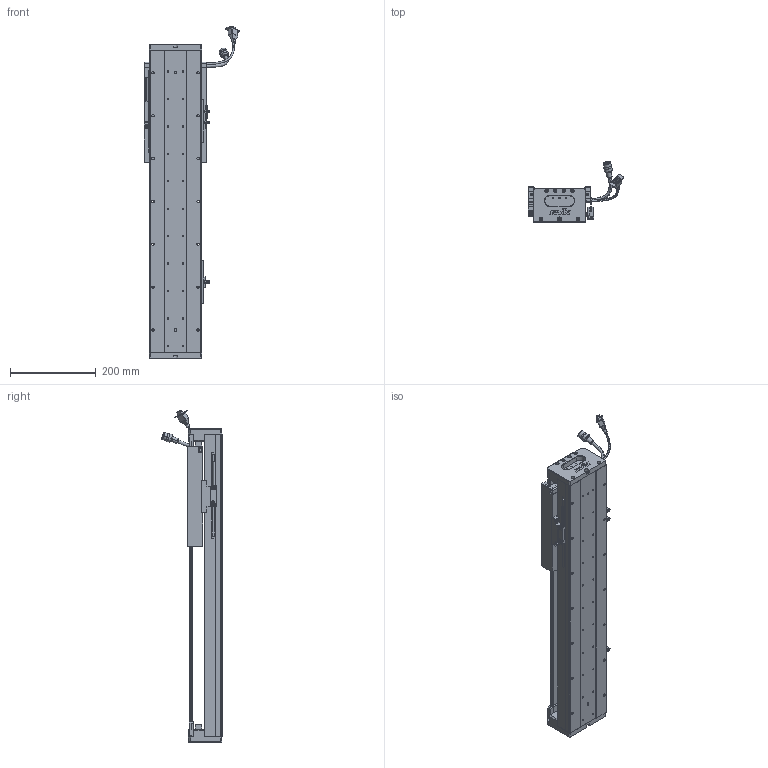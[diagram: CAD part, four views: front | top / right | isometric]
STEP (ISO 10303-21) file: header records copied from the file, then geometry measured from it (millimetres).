
FILE_DESCRIPTION (( 'STEP AP203' ), '1' );
FILE_NAME ('Z3-RY120D-1-L500-B-K.SLDASM_0400.step', '2021-05-17T05:45:55', ( '盈信电脑' ), ( '东莞市道滘镇水果街19号' ), 'SwSTEP 2.0', 'SolidWorks 2016', '' );
FILE_SCHEMA (( 'CONFIG_CONTROL_DESIGN' ));
Length unit declared in the file: millimetre
Products named in the file (37): SCREW-M1.6-3; SEAL; 140蚥薯蝶輸; Z3-RY120D-1-L500-B-K.SLDASM_0400; Z3-RY120铝滑块（21款）; COVER; 榋妏寠巭燃_暯_M2_2; SCALE-Part-1; Z-120詩湍傷裔啣; Z-RY120D詩湍奻揤裔; Z3-RY120-500-倰第菁釱_0400; HARNESS-Part-1; SEAL-Part-1; 120-Z-臏賑輸盄裔(21遴); LABEL-Part-1; HOLDER0; LABEL; PBU_SHEET; SHIELDPLATE; HARNESS-Part-2; 140雄赽晤鎢ん堤盄; Z-RY120D詩湍狟揤裔; 672嫖萇羲壽假蚾釱; SCREW-M1.7-1; Z3-RY120-L500詩湍100mm遵_0400; SCREW-M1.6; COVER-Part-1; HARNESS; PSLH080_PSLF2; 覜茼ん672; RY100FB-遵嫖萇覜茼え; 080黍杅芛假蚾釱21遴; SCREW-M1.6-1; SCALE; SCREW-M1.6-2; SCREW-M1.7; SCALE-Part-2
Assembly tree (43 placements, depth 4):
  Z3-RY120D-1-L500-B-K.SLDASM_0400
    Z3-RY120-500-倰第菁釱_0400
    覜茼ん672  x3
    672嫖萇羲壽假蚾釱  x2
    Z3-RY120铝滑块（21款）
    PSLH080_PSLF2
      SCALE
        SCALE-Part-1
        SCALE-Part-2
      HARNESS
        HARNESS-Part-1
        HARNESS-Part-2
      LABEL
        LABEL-Part-1
      COVER
        COVER-Part-1
      SEAL
        SEAL-Part-1
      榋妏寠巭燃_暯_M2_2
      SHIELDPLATE
      SCREW-M1.7
      SCREW-M1.7-1
      PBU_SHEET
      SCREW-M1.6
      SCREW-M1.6-1
      SCREW-M1.6-2
      SCREW-M1.6-3
      HOLDER0
    080黍杅芛假蚾釱21遴
    120-Z-臏賑輸盄裔(21遴)
    140雄赽晤鎢ん堤盄
    140蚥薯蝶輸  x2
    RY100FB-遵嫖萇覜茼え
    Z-120詩湍傷裔啣  x2
    Z-RY120D詩湍奻揤裔  x2
    Z-RY120D詩湍狟揤裔  x2
    Z3-RY120-L500詩湍100mm遵_0400
Bounding box: 222.88 x 140.94 x 774 mm (x, y, z)
Volume: 2462012.4 mm3; surface area: 795041.6 mm2
Topology: 38 solids, 38 shells, 2637 faces, 7017 edges, 4432 vertices
Faces by surface type: cylinder 1161, plane 1096, cone 258, torus 69, bspline 53
Entity records: 76670 total; most frequent: CARTESIAN_POINT 19495, DIRECTION 11091, ORIENTED_EDGE 11042, EDGE_CURVE 5521, AXIS2_PLACEMENT_3D 4046, VERTEX_POINT 3552, LINE 2999, VECTOR 2999
